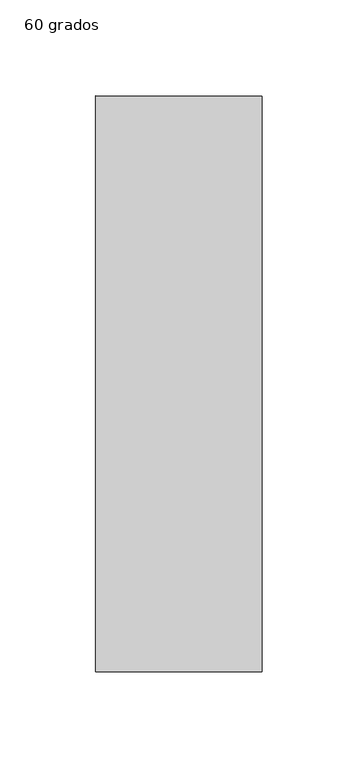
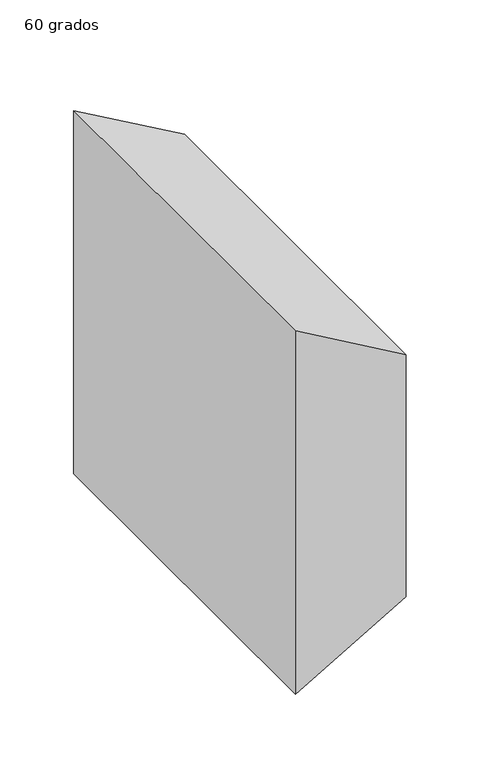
"""IFC4 building model written with IfcOpenShell, lengths in millimetres: duct fitting geometry, M_Transición rectangular - Ángulo : 60 grados."""

from ifc_helpers import new_model, si_unit, frame, origin, place, context, project, spatial, polyline, outline, extrude, source, transform, mapped, element, save


def duct_fitting_60_grados_3980c4cc(model_context):
    return source(origin(), model_context, "Body", "SweptSolid", [
        extrude(outline(polyline([(150.0, 0.0), (-150.0, 0.0), (-100.0, 86.6025404), (100.0, 86.6025404), (150.0, 0.0)])), frame((0.0, -150.0, 0.0), z_axis=(0.0, 1.0, 0.0), x_axis=(0.0, 0.0, 1.0)), (0.0, 0.0, 1.0), 300.0),
    ])


if __name__ == "__main__":
    model = new_model("IFC4")
    model_context = context("Model", 3, world=origin())
    ifc_project = project(units=[si_unit("LENGTHUNIT", "METRE", prefix="MILLI")], contexts=[model_context])
    site = spatial("IfcSite", under=ifc_project)
    building = spatial("IfcBuilding", under=site)
    placement = place(None, origin())
    duct_fitting_60_grados_shape = duct_fitting_60_grados_3980c4cc(model_context)
    element("IfcDuctFitting", 1, ObjectType="M_Transición rectangular - Ángulo : 60 grados", at=placement, inside=building, context=model_context, shape_type="MappedRepresentation", body=[
        mapped(duct_fitting_60_grados_shape, transform((0.0, 0.0, 0.0), x_axis=(1.0, 0.0, 0.0), y_axis=(0.0, 1.0, 0.0), z_axis=(0.0, 0.0, 1.0))),
    ])
    save(model, "model.ifc")
